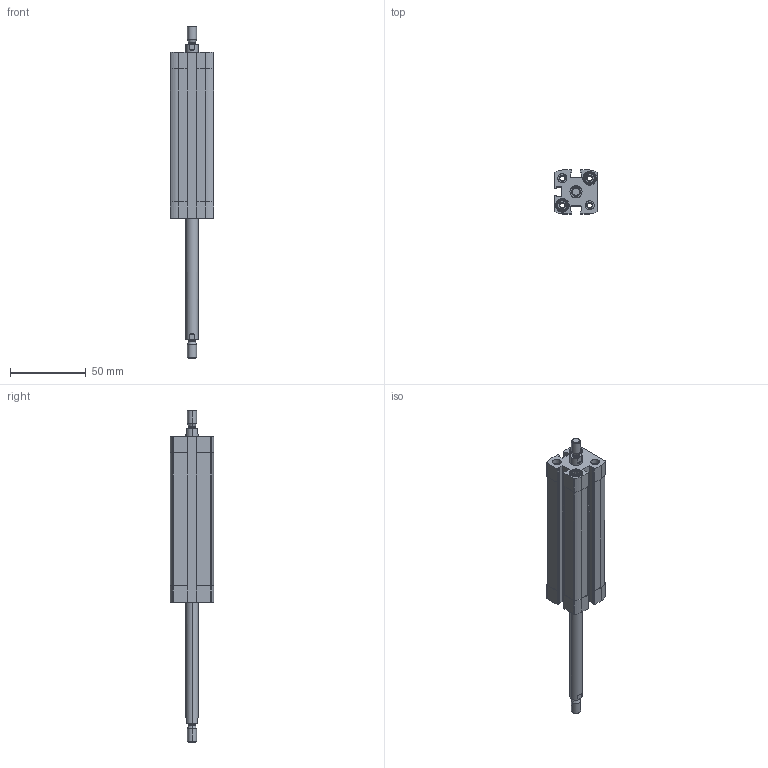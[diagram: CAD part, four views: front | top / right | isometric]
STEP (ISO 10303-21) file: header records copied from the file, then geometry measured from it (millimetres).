
FILE_DESCRIPTION (( 'STEP AP203' ), '1' );
FILE_NAME ('CCN16-75-P.STEP', '2020-06-22T18:38:26', ( '' ), ( '' ), 'SwSTEP 2.0', 'SolidWorks 2019', '' );
FILE_SCHEMA (( 'CONFIG_CONTROL_DESIGN' ));
Length unit declared in the file: millimetre
Products named in the file (1): CCN16-75-P
Bounding box: 29 x 29 x 219.7 mm (x, y, z)
Volume: 65779.2 mm3; surface area: 34951.1 mm2
Topology: 2 solids, 2 shells, 384 faces, 976 edges, 632 vertices
Faces by surface type: plane 192, cylinder 140, cone 44, torus 8
Entity records: 11783 total; most frequent: CARTESIAN_POINT 2293, DIRECTION 1986, ORIENTED_EDGE 1952, EDGE_CURVE 976, AXIS2_PLACEMENT_3D 725, VERTEX_POINT 632, VECTOR 536, LINE 536
